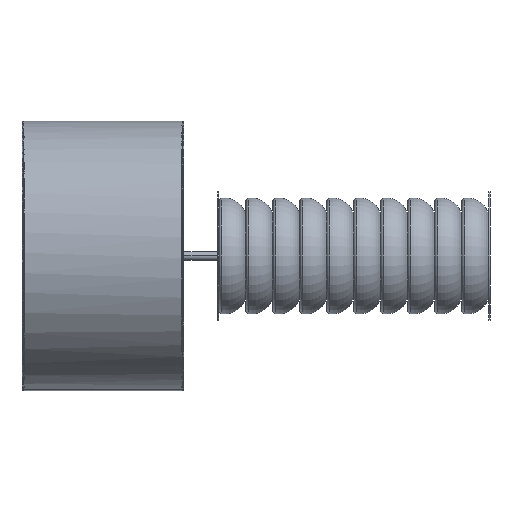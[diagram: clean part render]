
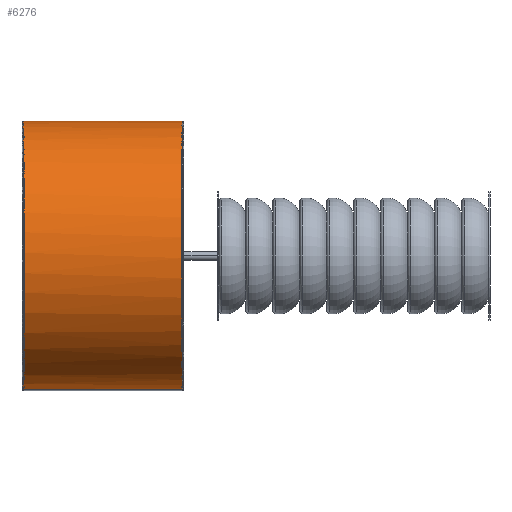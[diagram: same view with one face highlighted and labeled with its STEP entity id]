
A CAD part, left-side view. The second image highlights one B-rep face of the part: STEP entity #6276.
In plain terms, the highlighted free-form (B-spline) face has degree [1, 3] with [2, 4] control points.
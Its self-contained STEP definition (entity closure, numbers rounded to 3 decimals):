
#498 = CARTESIAN_POINT ( 'NONE',  ( 0., 565.314, 200. ) ) ;
#704 = CARTESIAN_POINT ( 'NONE',  ( 0., 801.314, 200. ) ) ;
#754 = CARTESIAN_POINT ( 'NONE',  ( -400., 801.314, 200. ) ) ;
#1077 = ORIENTED_EDGE ( 'NONE', *, *, #3449, .T. ) ;
#2391 = CARTESIAN_POINT ( 'NONE',  ( 0., 801.314, -200. ) ) ;
#2620 = EDGE_CURVE ( 'NONE', #7910, #2740, #3867, .T. ) ;
#2740 = VERTEX_POINT ( 'NONE', #9250 ) ;
#2823 = CARTESIAN_POINT ( 'NONE',  ( -400., 565.314, -200. ) ) ;
#2896 = FACE_OUTER_BOUND ( 'NONE', #3697, .T. ) ;
#3043 = CARTESIAN_POINT ( 'NONE',  ( -400., 565.314, 200. ) ) ;
#3355 = B_SPLINE_CURVE_WITH_KNOTS ( 'NONE', 1,
 ( #2391, #6798 ),
 .UNSPECIFIED., .F., .F.,
 ( 2, 2 ),
 ( 0., 1. ),
 .UNSPECIFIED. ) ;
#3449 = EDGE_CURVE ( 'NONE', #12897, #4785, #3355, .T. ) ;
#3606 = ORIENTED_EDGE ( 'NONE', *, *, #4436, .F. ) ;
#3697 = EDGE_LOOP ( 'NONE', ( #7443, #3606, #1077, #9796 ) ) ;
#3867 = B_SPLINE_CURVE_WITH_KNOTS ( 'NONE', 1,
 ( #704, #498 ),
 .UNSPECIFIED., .F., .F.,
 ( 2, 2 ),
 ( 0., 1. ),
 .UNSPECIFIED. ) ;
#3917 = CARTESIAN_POINT ( 'NONE',  ( 0., 565.314, -200. ) ) ;
#4332 =( BOUNDED_CURVE ( )  B_SPLINE_CURVE ( 3, ( #11912, #3043, #2823, #13942 ),
 .UNSPECIFIED., .F., .F. ) 
 B_SPLINE_CURVE_WITH_KNOTS ( ( 4, 4 ),
 ( 0., 3.142 ),
 .UNSPECIFIED. ) 
 CURVE ( )  GEOMETRIC_REPRESENTATION_ITEM ( )  RATIONAL_B_SPLINE_CURVE ( ( 0.959, 0.32, 0.32, 0.959 ) ) 
 REPRESENTATION_ITEM ( '' )  );
#4436 = EDGE_CURVE ( 'NONE', #12897, #7910, #6731, .T. ) ;
#4529 = CARTESIAN_POINT ( 'NONE',  ( 0., 801.314, 200. ) ) ;
#4785 = VERTEX_POINT ( 'NONE', #3917 ) ;
#4939 = EDGE_CURVE ( 'NONE', #2740, #4785, #4332, .T. ) ;
#5065 = CARTESIAN_POINT ( 'NONE',  ( 0., 565.314, -200. ) ) ;
#6276 = ADVANCED_FACE ( 'NONE', ( #2896 ), #10508, .F. ) ;
#6731 =( BOUNDED_CURVE ( )  B_SPLINE_CURVE ( 3, ( #10880, #13129, #11380, #4529 ),
 .UNSPECIFIED., .F., .F. ) 
 B_SPLINE_CURVE_WITH_KNOTS ( ( 4, 4 ),
 ( 0., 3.142 ),
 .UNSPECIFIED. ) 
 CURVE ( )  GEOMETRIC_REPRESENTATION_ITEM ( )  RATIONAL_B_SPLINE_CURVE ( ( 0.959, 0.32, 0.32, 0.959 ) ) 
 REPRESENTATION_ITEM ( '' )  );
#6798 = CARTESIAN_POINT ( 'NONE',  ( 0., 565.314, -200. ) ) ;
#7237 = CARTESIAN_POINT ( 'NONE',  ( 0., 565.314, 200. ) ) ;
#7443 = ORIENTED_EDGE ( 'NONE', *, *, #2620, .F. ) ;
#7910 = VERTEX_POINT ( 'NONE', #12658 ) ;
#8411 = CARTESIAN_POINT ( 'NONE',  ( 0., 801.314, -200. ) ) ;
#8451 = CARTESIAN_POINT ( 'NONE',  ( -400., 801.314, -200. ) ) ;
#8524 = CARTESIAN_POINT ( 'NONE',  ( -400., 565.314, 200. ) ) ;
#9250 = CARTESIAN_POINT ( 'NONE',  ( 0., 565.314, 200. ) ) ;
#9376 = CARTESIAN_POINT ( 'NONE',  ( 0., 801.314, 200. ) ) ;
#9796 = ORIENTED_EDGE ( 'NONE', *, *, #4939, .F. ) ;
#10508 =( BOUNDED_SURFACE ( )  B_SPLINE_SURFACE ( 1, 3, ( 
 ( #9376, #754, #8451, #10616 ),
 ( #7237, #8524, #11631, #5065 ) ),
 .UNSPECIFIED., .F., .F., .F. ) 
 B_SPLINE_SURFACE_WITH_KNOTS ( ( 2, 2 ),
 ( 4, 4 ),
 ( 0., 1. ),
 ( 0., 1. ),
 .UNSPECIFIED. ) 
 GEOMETRIC_REPRESENTATION_ITEM ( )  RATIONAL_B_SPLINE_SURFACE ( (
 ( 1., 0.333, 0.333, 1.),
 ( 1., 0.333, 0.333, 1.) ) ) 
 REPRESENTATION_ITEM ( '' )  SURFACE ( )  );
#10616 = CARTESIAN_POINT ( 'NONE',  ( 0., 801.314, -200. ) ) ;
#10880 = CARTESIAN_POINT ( 'NONE',  ( 0., 801.314, -200. ) ) ;
#11380 = CARTESIAN_POINT ( 'NONE',  ( -400., 801.314, 200. ) ) ;
#11631 = CARTESIAN_POINT ( 'NONE',  ( -400., 565.314, -200. ) ) ;
#11912 = CARTESIAN_POINT ( 'NONE',  ( 0., 565.314, 200. ) ) ;
#12658 = CARTESIAN_POINT ( 'NONE',  ( 0., 801.314, 200. ) ) ;
#12897 = VERTEX_POINT ( 'NONE', #8411 ) ;
#13129 = CARTESIAN_POINT ( 'NONE',  ( -400., 801.314, -200. ) ) ;
#13942 = CARTESIAN_POINT ( 'NONE',  ( 0., 565.314, -200. ) ) ;
